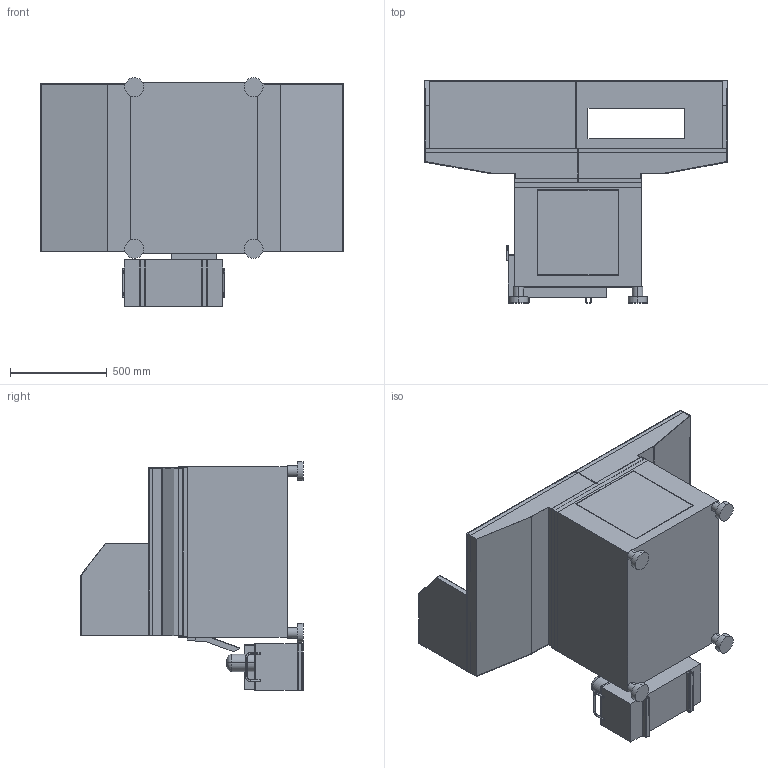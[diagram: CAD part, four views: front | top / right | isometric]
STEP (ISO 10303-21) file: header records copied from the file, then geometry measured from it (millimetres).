
FILE_DESCRIPTION (( 'STEP AP214' ), '1' );
FILE_NAME ('31191_BASE_AND_TUB_ASSEMBLY.STEP', '2014-07-02T14:14:16', ( '' ), ( '' ), 'SwSTEP 2.0', 'SolidWorks 2012', '' );
FILE_SCHEMA (( 'AUTOMOTIVE_DESIGN' ));
Length unit declared in the file: millimetre
Products named in the file (8): 31191_BASE_AND_TUB_ASSEMBLY; 31191 770 BASE; 31191 LEFT TUB; 31191 RIGHT TUB; 31191 COOLANT TANK; 31191 COOLANT CHUTE; 31191 LEFT BACK SPLASH; 31191 RIGHT BACK SPLASH
Assembly tree (7 placements, depth 2):
  31191_BASE_AND_TUB_ASSEMBLY
    31191 770 BASE
    31191 LEFT TUB
    31191 RIGHT TUB
    31191 COOLANT TANK
    31191 COOLANT CHUTE
    31191 LEFT BACK SPLASH
    31191 RIGHT BACK SPLASH
Bounding box: 1564 x 1148 x 1182 mm (x, y, z)
Volume: 328724570 mm3; surface area: 10607793.9 mm2
Topology: 24 solids, 24 shells, 436 faces, 1082 edges, 706 vertices
Faces by surface type: plane 356, cylinder 62, torus 10, cone 8
Entity records: 13337 total; most frequent: CARTESIAN_POINT 2226, ORIENTED_EDGE 2148, DIRECTION 2130, EDGE_CURVE 1074, VECTOR 910, LINE 910, VERTEX_POINT 706, AXIS2_PLACEMENT_3D 610
